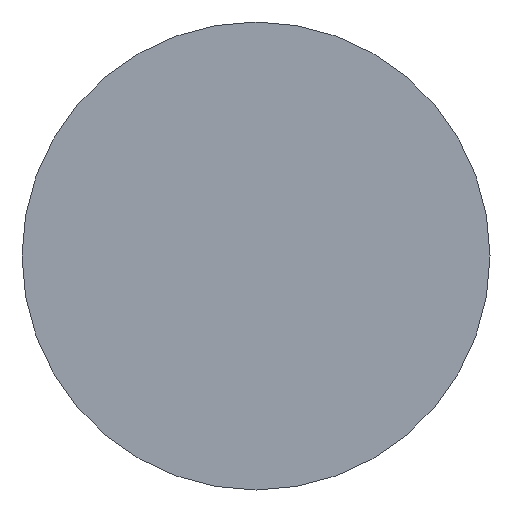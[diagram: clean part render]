
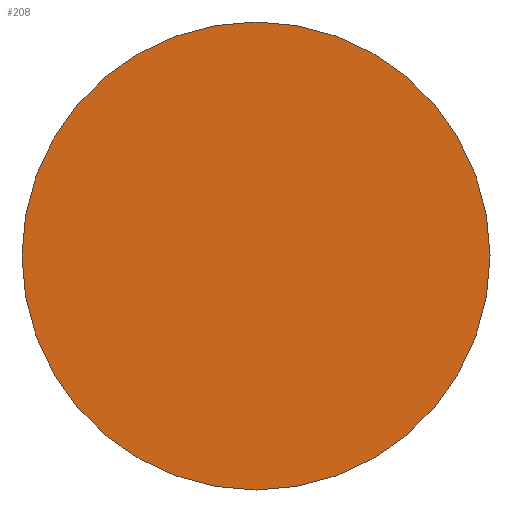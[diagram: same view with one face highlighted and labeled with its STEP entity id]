
A CAD part, front view. The second image highlights one B-rep face of the part: STEP entity #208.
In plain terms, the highlighted planar face has unit normal (0, -1, 0).
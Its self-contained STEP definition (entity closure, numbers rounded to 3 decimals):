
#7 = DIRECTION ( 'NONE',  ( 0., 1., 0. ) ) ;
#14 = CARTESIAN_POINT ( 'NONE',  ( 0., 0., 0. ) ) ;
#34 = DIRECTION ( 'NONE',  ( 0., 0., 1. ) ) ;
#35 = CARTESIAN_POINT ( 'NONE',  ( 0., 0., -6.5 ) ) ;
#37 = ORIENTED_EDGE ( 'NONE', *, *, #228, .F. ) ;
#38 = DIRECTION ( 'NONE',  ( 0., 1., 0. ) ) ;
#45 = VERTEX_POINT ( 'NONE', #35 ) ;
#54 = CARTESIAN_POINT ( 'NONE',  ( 0., 0., 0. ) ) ;
#59 = AXIS2_PLACEMENT_3D ( 'NONE', #233, #171, #114 ) ;
#65 = DIRECTION ( 'NONE',  ( 0., 0., 1. ) ) ;
#68 = EDGE_CURVE ( 'NONE', #45, #166, #190, .T. ) ;
#86 = EDGE_LOOP ( 'NONE', ( #163, #37 ) ) ;
#90 = PLANE ( 'NONE',  #191 ) ;
#114 = DIRECTION ( 'NONE',  ( 0., 0., 1. ) ) ;
#134 = AXIS2_PLACEMENT_3D ( 'NONE', #14, #38, #65 ) ;
#163 = ORIENTED_EDGE ( 'NONE', *, *, #68, .F. ) ;
#166 = VERTEX_POINT ( 'NONE', #251 ) ;
#171 = DIRECTION ( 'NONE',  ( 0., 1., 0. ) ) ;
#190 = CIRCLE ( 'NONE', #134, 6.5 ) ;
#191 = AXIS2_PLACEMENT_3D ( 'NONE', #54, #7, #34 ) ;
#203 = FACE_OUTER_BOUND ( 'NONE', #86, .T. ) ;
#208 = ADVANCED_FACE ( 'NONE', ( #203 ), #90, .F. ) ;
#228 = EDGE_CURVE ( 'NONE', #166, #45, #246, .T. ) ;
#233 = CARTESIAN_POINT ( 'NONE',  ( 0., 0., 0. ) ) ;
#246 = CIRCLE ( 'NONE', #59, 6.5 ) ;
#251 = CARTESIAN_POINT ( 'NONE',  ( 0., 0., 6.5 ) ) ;
